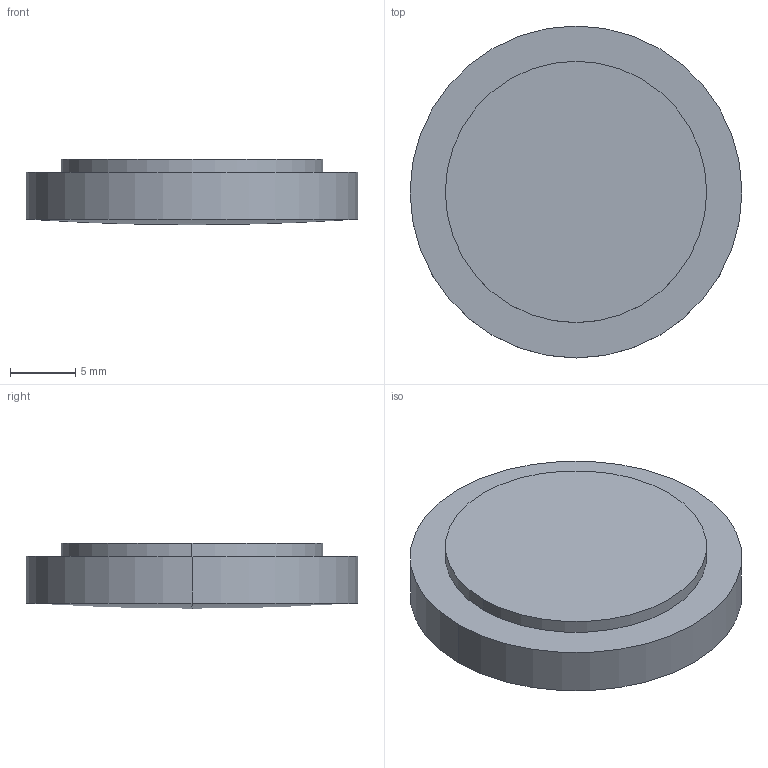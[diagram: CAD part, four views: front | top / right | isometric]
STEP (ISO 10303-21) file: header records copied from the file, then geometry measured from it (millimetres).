
FILE_DESCRIPTION(('STEP AP214'),'1');
FILE_NAME('LLZ-25140.STEP','2020-03-09T17:42:31',(' '),(' '),'Spatial InterOp 3D',' ',' ');
FILE_SCHEMA(('AUTOMOTIVE_DESIGN { 1 0 10303 214 1 1 1 1 }'));
Length unit declared in the file: millimetre
Products named in the file (1): 1
Bounding box: 25.4 x 25.4 x 5 mm (x, y, z)
Volume: 2234.9 mm3; surface area: 1990.9 mm2
Topology: 2 solids, 2 shells, 9 faces, 16 edges, 9 vertices
Faces by surface type: cylinder 4, plane 3, sphere 2
Entity records: 229 total; most frequent: DIRECTION 46, CARTESIAN_POINT 34, ORIENTED_EDGE 28, AXIS2_PLACEMENT_3D 21, EDGE_CURVE 14, CIRCLE 10, ADVANCED_FACE 9, FACE_OUTER_BOUND 9
